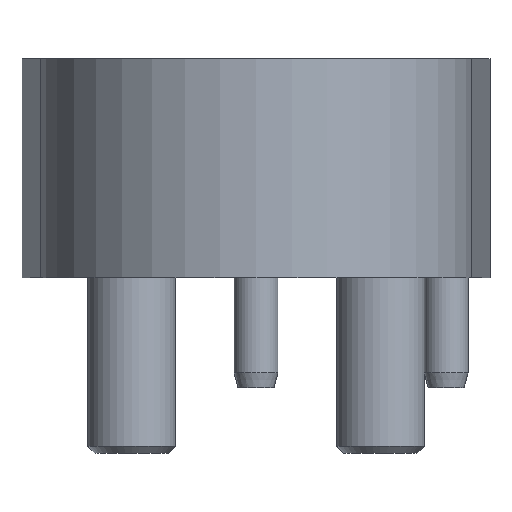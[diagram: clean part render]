
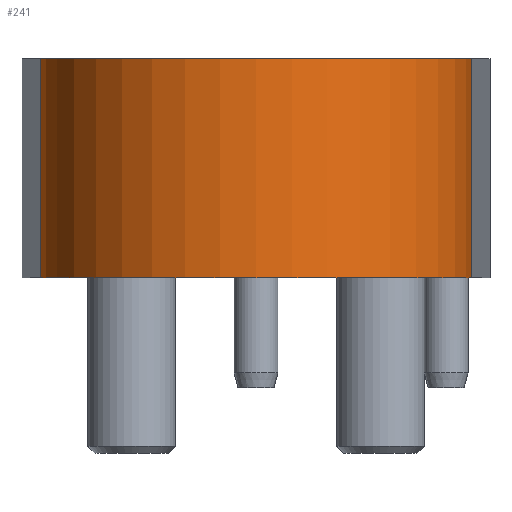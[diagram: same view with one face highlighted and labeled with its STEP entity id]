
A CAD part, left-side view. The second image highlights one B-rep face of the part: STEP entity #241.
In plain terms, the highlighted cylindrical face has radius 29.5 mm (diameter 59 mm), a partial arc.
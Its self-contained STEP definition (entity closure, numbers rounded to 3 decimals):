
#241=ADVANCED_FACE('',(#425),#376,.T.);
#376=CYLINDRICAL_SURFACE('',#2220,29.5);
#425=FACE_OUTER_BOUND('',#543,.T.);
#543=EDGE_LOOP('',(#827,#828,#829,#830));
#703=CIRCLE('',#2218,29.5);
#704=CIRCLE('',#2219,29.5);
#827=ORIENTED_EDGE('',*,*,#1597,.T.);
#828=ORIENTED_EDGE('',*,*,#1598,.F.);
#829=ORIENTED_EDGE('',*,*,#1599,.F.);
#830=ORIENTED_EDGE('',*,*,#1600,.T.);
#1411=VERTEX_POINT('',#3163);
#1412=VERTEX_POINT('',#3164);
#1413=VERTEX_POINT('',#3166);
#1414=VERTEX_POINT('',#3168);
#1597=EDGE_CURVE('',#1411,#1412,#1889,.T.);
#1598=EDGE_CURVE('',#1413,#1412,#703,.T.);
#1599=EDGE_CURVE('',#1414,#1413,#1890,.T.);
#1600=EDGE_CURVE('',#1414,#1411,#704,.T.);
#1889=LINE('',#3162,#2053);
#1890=LINE('',#3167,#2054);
#2053=VECTOR('',#2479,1.);
#2054=VECTOR('',#2482,1.);
#2218=AXIS2_PLACEMENT_3D('',#3165,#2480,#2481);
#2219=AXIS2_PLACEMENT_3D('',#3169,#2483,#2484);
#2220=AXIS2_PLACEMENT_3D('',#3170,#2485,#2486);
#2479=DIRECTION('',(0.,0.,1.));
#2480=DIRECTION('',(0.,0.,1.));
#2481=DIRECTION('',(0.,1.,0.));
#2482=DIRECTION('',(0.,0.,1.));
#2483=DIRECTION('',(0.,0.,1.));
#2484=DIRECTION('',(0.,1.,0.));
#2485=DIRECTION('',(0.,0.,1.));
#2486=DIRECTION('',(-1.,0.,0.));
#3162=CARTESIAN_POINT('',(-1.989,-29.433,0.));
#3163=CARTESIAN_POINT('',(-1.989,-29.433,0.));
#3164=CARTESIAN_POINT('',(-1.989,-29.433,30.));
#3165=CARTESIAN_POINT('',(0.,0.,30.));
#3166=CARTESIAN_POINT('',(-1.989,29.433,30.));
#3167=CARTESIAN_POINT('',(-1.989,29.433,0.));
#3168=CARTESIAN_POINT('',(-1.989,29.433,0.));
#3169=CARTESIAN_POINT('',(0.,0.,0.));
#3170=CARTESIAN_POINT('',(0.,0.,0.));
